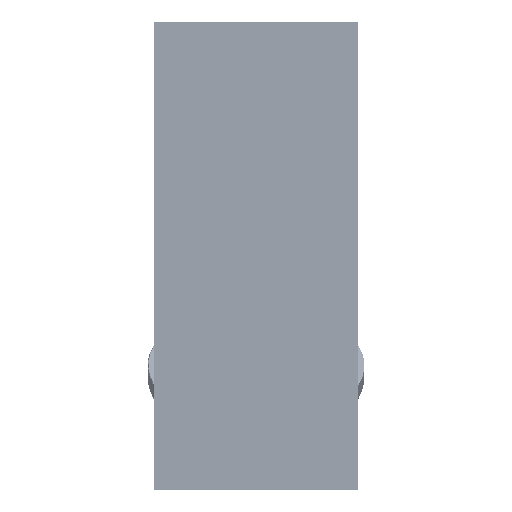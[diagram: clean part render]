
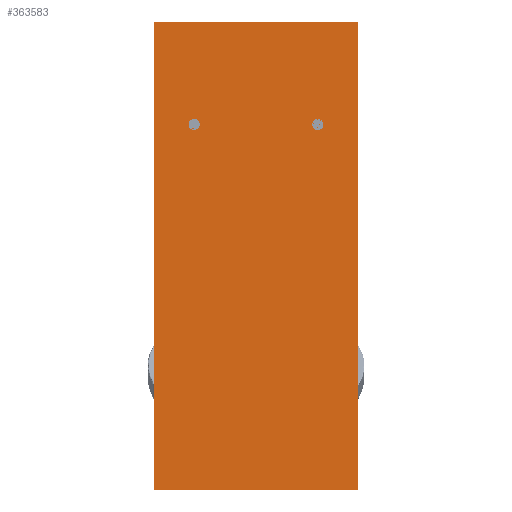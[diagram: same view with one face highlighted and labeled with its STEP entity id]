
A CAD part, front view. The second image highlights one B-rep face of the part: STEP entity #363583.
In plain terms, the highlighted planar face has unit normal (0, 1, 0).
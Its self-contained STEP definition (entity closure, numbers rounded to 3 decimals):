
#16365 = CARTESIAN_POINT ( 'NONE',  ( -462.093, 0., -184.48 ) ) ;
#23916 = VECTOR ( 'NONE', #151000, 1000. ) ;
#30984 = EDGE_CURVE ( 'NONE', #370803, #42261, #177779, .T. ) ;
#42261 = VERTEX_POINT ( 'NONE', #156441 ) ;
#49145 = CARTESIAN_POINT ( 'NONE',  ( -462.093, 0., 1933.817 ) ) ;
#64525 = AXIS2_PLACEMENT_3D ( 'NONE', #400052, #434094, #231274 ) ;
#68960 = EDGE_CURVE ( 'NONE', #181564, #370803, #311814, .T. ) ;
#82399 = FACE_OUTER_BOUND ( 'NONE', #217854, .T. ) ;
#89582 = CARTESIAN_POINT ( 'NONE',  ( -462.093, 0., -184.48 ) ) ;
#98653 = ORIENTED_EDGE ( 'NONE', *, *, #30984, .T. ) ;
#117648 = LINE ( 'NONE', #89582, #319165 ) ;
#151000 = DIRECTION ( 'NONE',  ( 0., 0., -1. ) ) ;
#152953 = ORIENTED_EDGE ( 'NONE', *, *, #233249, .T. ) ;
#156441 = CARTESIAN_POINT ( 'NONE',  ( 462.093, 0., -184.48 ) ) ;
#163094 = PLANE ( 'NONE',  #64525 ) ;
#172648 = ORIENTED_EDGE ( 'NONE', *, *, #223127, .T. ) ;
#177779 = LINE ( 'NONE', #213358, #23916 ) ;
#181564 = VERTEX_POINT ( 'NONE', #49145 ) ;
#210182 = CARTESIAN_POINT ( 'NONE',  ( -462.093, 0., 1933.817 ) ) ;
#213358 = CARTESIAN_POINT ( 'NONE',  ( 462.093, 0., 1933.817 ) ) ;
#217854 = EDGE_LOOP ( 'NONE', ( #98653, #172648, #152953, #394625 ) ) ;
#223127 = EDGE_CURVE ( 'NONE', #42261, #342301, #117648, .T. ) ;
#231274 = DIRECTION ( 'NONE',  ( 0., 0., -1. ) ) ;
#233249 = EDGE_CURVE ( 'NONE', #342301, #181564, #309997, .T. ) ;
#295638 = DIRECTION ( 'NONE',  ( -1., 0., 0. ) ) ;
#309997 = LINE ( 'NONE', #403140, #389538 ) ;
#311814 = LINE ( 'NONE', #210182, #391291 ) ;
#312785 = CARTESIAN_POINT ( 'NONE',  ( 462.093, 0., 1933.817 ) ) ;
#319165 = VECTOR ( 'NONE', #295638, 1000. ) ;
#342301 = VERTEX_POINT ( 'NONE', #16365 ) ;
#363583 = ADVANCED_FACE ( 'NONE', ( #82399 ), #163094, .F. ) ;
#370803 = VERTEX_POINT ( 'NONE', #312785 ) ;
#379038 = DIRECTION ( 'NONE',  ( 1., 0., 0. ) ) ;
#389538 = VECTOR ( 'NONE', #437205, 1000. ) ;
#391291 = VECTOR ( 'NONE', #379038, 1000. ) ;
#394625 = ORIENTED_EDGE ( 'NONE', *, *, #68960, .T. ) ;
#400052 = CARTESIAN_POINT ( 'NONE',  ( 0., 0., 0. ) ) ;
#403140 = CARTESIAN_POINT ( 'NONE',  ( -462.093, 0., 1933.817 ) ) ;
#434094 = DIRECTION ( 'NONE',  ( 0., -1., 0. ) ) ;
#437205 = DIRECTION ( 'NONE',  ( 0., 0., 1. ) ) ;
